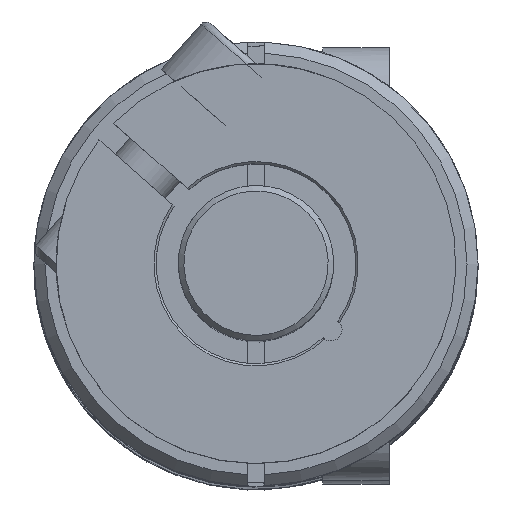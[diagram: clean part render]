
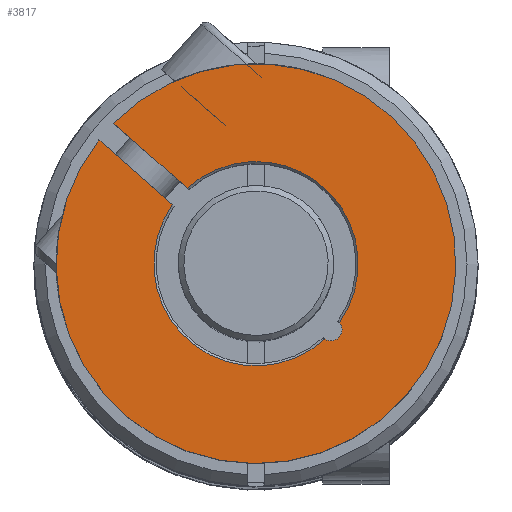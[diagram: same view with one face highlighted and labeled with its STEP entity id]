
A CAD part, top view. The second image highlights one B-rep face of the part: STEP entity #3817.
In plain terms, the highlighted planar face has unit normal (0, 0, 1) as drawn and (0, 0, -1) by its records, which use the part's own axes.
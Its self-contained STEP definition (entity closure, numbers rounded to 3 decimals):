
#270=LINE('',#7064,#459);
#279=LINE('',#7163,#468);
#459=VECTOR('',#5598,10.);
#468=VECTOR('',#5637,10.);
#578=PLANE('',#4422);
#965=FACE_OUTER_BOUND('',#1252,.T.);
#1252=EDGE_LOOP('',(#3511,#3512,#3513,#3514,#3515,#3516));
#1542=CIRCLE('',#4389,1.);
#1553=CIRCLE('',#4407,9.2);
#1554=CIRCLE('',#4409,9.2);
#1558=CIRCLE('',#4419,18.);
#1904=VERTEX_POINT('',#7023);
#1905=VERTEX_POINT('',#7025);
#1918=VERTEX_POINT('',#7061);
#1919=VERTEX_POINT('',#7063);
#1923=VERTEX_POINT('',#7078);
#1930=VERTEX_POINT('',#7161);
#2426=EDGE_CURVE('',#1905,#1904,#1542,.F.);
#2445=EDGE_CURVE('',#1919,#1918,#270,.T.);
#2452=EDGE_CURVE('',#1905,#1918,#1553,.F.);
#2454=EDGE_CURVE('',#1904,#1923,#1554,.T.);
#2463=EDGE_CURVE('',#1923,#1930,#279,.T.);
#2464=EDGE_CURVE('',#1930,#1919,#1558,.T.);
#3511=ORIENTED_EDGE('',*,*,#2452,.F.);
#3512=ORIENTED_EDGE('',*,*,#2426,.T.);
#3513=ORIENTED_EDGE('',*,*,#2454,.T.);
#3514=ORIENTED_EDGE('',*,*,#2463,.T.);
#3515=ORIENTED_EDGE('',*,*,#2464,.T.);
#3516=ORIENTED_EDGE('',*,*,#2445,.T.);
#3817=ADVANCED_FACE('',(#965),#578,.F.);
#4389=AXIS2_PLACEMENT_3D('',#7026,#5560,#5561);
#4407=AXIS2_PLACEMENT_3D('',#7076,#5611,#5612);
#4409=AXIS2_PLACEMENT_3D('',#7080,#5616,#5617);
#4419=AXIS2_PLACEMENT_3D('',#7165,#5640,#5641);
#4422=AXIS2_PLACEMENT_3D('',#7168,#5646,#5647);
#5560=DIRECTION('center_axis',(0.,0.,-1.));
#5561=DIRECTION('ref_axis',(0.707,-0.707,0.));
#5598=DIRECTION('',(0.,-1.,0.));
#5611=DIRECTION('center_axis',(0.,0.,1.));
#5612=DIRECTION('ref_axis',(-1.,0.,0.));
#5616=DIRECTION('center_axis',(0.,0.,1.));
#5617=DIRECTION('ref_axis',(1.,0.,0.));
#5637=DIRECTION('',(0.,1.,0.));
#5640=DIRECTION('center_axis',(0.,0.,-1.));
#5641=DIRECTION('ref_axis',(-1.,0.,0.));
#5646=DIRECTION('center_axis',(0.,0.,1.));
#5647=DIRECTION('ref_axis',(1.,0.,0.));
#7023=CARTESIAN_POINT('',(0.989,-9.147,-5.6));
#7025=CARTESIAN_POINT('',(-0.989,-9.147,-5.6));
#7026=CARTESIAN_POINT('Origin',(0.,-9.,-5.6));
#7061=CARTESIAN_POINT('',(-1.,9.145,-5.6));
#7063=CARTESIAN_POINT('',(-1.,17.972,-5.6));
#7064=CARTESIAN_POINT('',(-1.,9.,-5.6));
#7076=CARTESIAN_POINT('Origin',(0.,0.,-5.6));
#7078=CARTESIAN_POINT('',(1.,9.145,-5.6));
#7080=CARTESIAN_POINT('Origin',(0.,0.,-5.6));
#7161=CARTESIAN_POINT('',(1.,17.972,-5.6));
#7163=CARTESIAN_POINT('',(1.,-5.,-5.6));
#7165=CARTESIAN_POINT('Origin',(0.,0.,-5.6));
#7168=CARTESIAN_POINT('Origin',(0.,0.,
-5.6));
